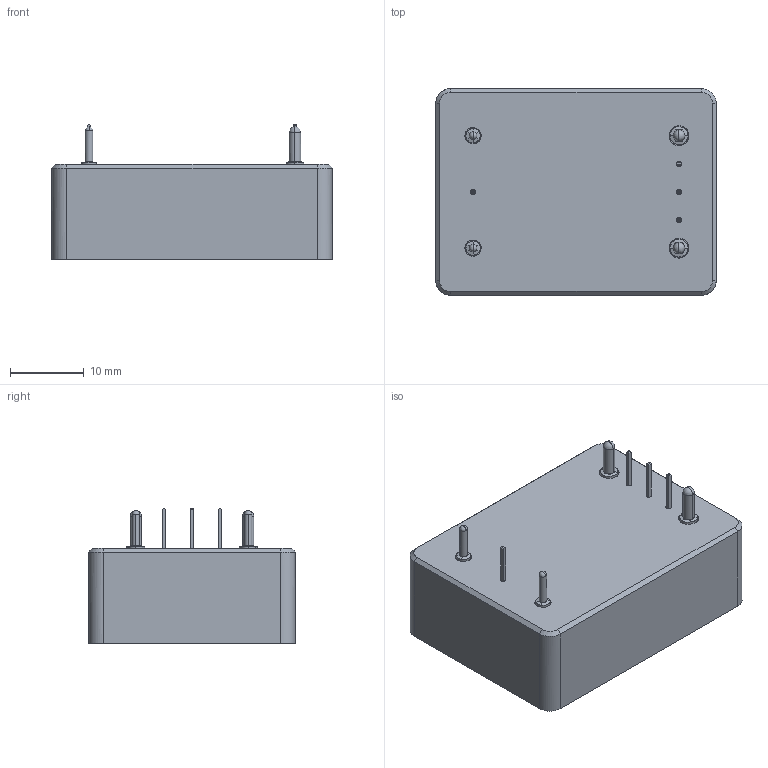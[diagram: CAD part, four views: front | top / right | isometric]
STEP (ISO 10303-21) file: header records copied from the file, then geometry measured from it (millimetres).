
FILE_DESCRIPTION (( 'STEP AP214' ), '1' );
FILE_NAME ('KMNB01.STEP', '2023-08-12T15:15:23', ( '' ), ( '' ), 'SwSTEP 2.0', 'SolidWorks 2021', '' );
FILE_SCHEMA (( 'AUTOMOTIVE_DESIGN' ));
Length unit declared in the file: millimetre
Products named in the file (1): KMNB01
Bounding box: 38 x 28 x 18.3 mm (x, y, z)
Volume: 5906 mm3; surface area: 10179.6 mm2
Topology: 9 solids, 9 shells, 667 faces, 1716 edges, 1115 vertices
Faces by surface type: plane 447, cylinder 172, cone 36, sphere 8, torus 4
Entity records: 24586 total; most frequent: CARTESIAN_POINT 11681, ORIENTED_EDGE 3408, B_SPLINE_CURVE_WITH_KNOTS 1704, EDGE_CURVE 1704, DIRECTION 1336, VERTEX_POINT 1111, EDGE_LOOP 749, AXIS2_PLACEMENT_3D 668
